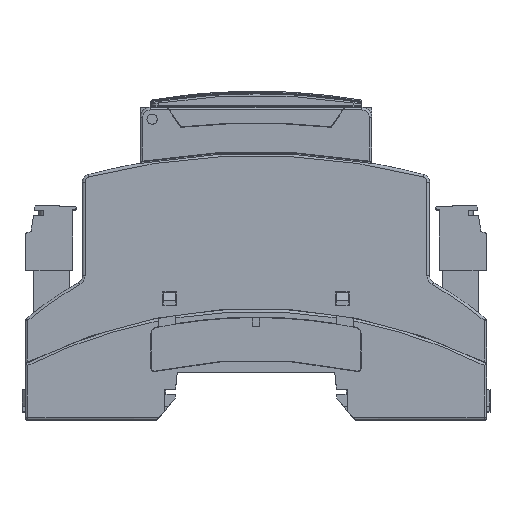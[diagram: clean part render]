
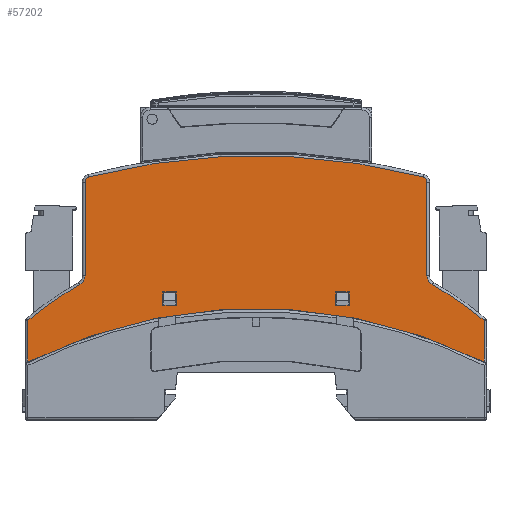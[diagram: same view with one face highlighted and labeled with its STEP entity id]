
A CAD part, top view. The second image highlights one B-rep face of the part: STEP entity #57202.
In plain terms, the highlighted planar face has unit normal (0, 0, 1).
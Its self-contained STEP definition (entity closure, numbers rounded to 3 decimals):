
#1226=FACE_BOUND('',#7648,.T.);
#1227=FACE_BOUND('',#7649,.T.);
#1864=CIRCLE('',#60338,99.5);
#1869=CIRCLE('',#60345,69.5);
#1872=CIRCLE('',#60351,2.);
#1874=CIRCLE('',#60355,1.);
#1877=CIRCLE('',#60359,2.);
#1937=CIRCLE('',#60550,129.2);
#1948=CIRCLE('',#60589,1.);
#1979=CIRCLE('',#60698,69.5);
#4410=FACE_OUTER_BOUND('',#7647,.T.);
#7647=EDGE_LOOP('',(#43530,#43531,#43532,#43533,#43534,#43535,#43536,#43537,
#43538,#43539,#43540,#43541));
#7648=EDGE_LOOP('',(#43542,#43543,#43544,#43545));
#7649=EDGE_LOOP('',(#43546,#43547,#43548,#43549));
#11834=LINE('',#83375,#18674);
#11941=LINE('',#83584,#18781);
#11956=LINE('',#83613,#18796);
#12030=LINE('',#83794,#18870);
#12038=LINE('',#83936,#18878);
#12201=LINE('',#84541,#19041);
#12274=LINE('',#84747,#19114);
#12277=LINE('',#84758,#19117);
#12718=LINE('',#85905,#19558);
#12720=LINE('',#85910,#19560);
#12723=LINE('',#85914,#19563);
#12724=LINE('',#85916,#19564);
#18674=VECTOR('',#67170,1.);
#18781=VECTOR('',#67397,1.);
#18796=VECTOR('',#67416,1.);
#18870=VECTOR('',#67552,1.);
#18878=VECTOR('',#67598,1.);
#19041=VECTOR('',#67949,1.);
#19114=VECTOR('',#68130,1.);
#19117=VECTOR('',#68145,1.);
#19558=VECTOR('',#69078,1.);
#19560=VECTOR('',#69082,1.);
#19563=VECTOR('',#69087,1.);
#19564=VECTOR('',#69090,1.);
#25059=VERTEX_POINT('',#83373);
#25060=VERTEX_POINT('',#83374);
#25101=VERTEX_POINT('',#83581);
#25102=VERTEX_POINT('',#83583);
#25189=VERTEX_POINT('',#83792);
#25190=VERTEX_POINT('',#83793);
#25192=VERTEX_POINT('',#83853);
#25199=VERTEX_POINT('',#83923);
#25200=VERTEX_POINT('',#83930);
#25201=VERTEX_POINT('',#83934);
#25202=VERTEX_POINT('',#83938);
#25204=VERTEX_POINT('',#83943);
#25205=VERTEX_POINT('',#83945);
#25360=VERTEX_POINT('',#84540);
#25400=VERTEX_POINT('',#84754);
#25424=VERTEX_POINT('',#84906);
#25719=VERTEX_POINT('',#85902);
#25720=VERTEX_POINT('',#85904);
#25721=VERTEX_POINT('',#85908);
#25722=VERTEX_POINT('',#85909);
#31088=EDGE_CURVE('',#25059,#25060,#11834,.T.);
#31195=EDGE_CURVE('',#25102,#25101,#11941,.T.);
#31210=EDGE_CURVE('',#25060,#25102,#11956,.T.);
#31303=EDGE_CURVE('',#25189,#25190,#12030,.T.);
#31308=EDGE_CURVE('',#25192,#25190,#1864,.T.);
#31319=EDGE_CURVE('',#25199,#25189,#1869,.T.);
#31322=EDGE_CURVE('',#25199,#25200,#1872,.T.);
#31324=EDGE_CURVE('',#25201,#25200,#12038,.T.);
#31325=EDGE_CURVE('',#25202,#25201,#1874,.T.);
#31328=EDGE_CURVE('',#25204,#25205,#1877,.T.);
#31534=EDGE_CURVE('',#25360,#25205,#12201,.T.);
#31623=EDGE_CURVE('',#25101,#25059,#12274,.T.);
#31627=EDGE_CURVE('',#25192,#25400,#12277,.T.);
#31674=EDGE_CURVE('',#25202,#25424,#1937,.T.);
#31830=EDGE_CURVE('',#25360,#25424,#1948,.T.);
#32063=EDGE_CURVE('',#25204,#25400,#1979,.T.);
#32133=EDGE_CURVE('',#25720,#25719,#12718,.T.);
#32135=EDGE_CURVE('',#25721,#25722,#12720,.T.);
#32138=EDGE_CURVE('',#25722,#25720,#12723,.T.);
#32139=EDGE_CURVE('',#25719,#25721,#12724,.T.);
#43530=ORIENTED_EDGE('',*,*,#31308,.T.);
#43531=ORIENTED_EDGE('',*,*,#31303,.F.);
#43532=ORIENTED_EDGE('',*,*,#31319,.F.);
#43533=ORIENTED_EDGE('',*,*,#31322,.T.);
#43534=ORIENTED_EDGE('',*,*,#31324,.F.);
#43535=ORIENTED_EDGE('',*,*,#31325,.F.);
#43536=ORIENTED_EDGE('',*,*,#31674,.T.);
#43537=ORIENTED_EDGE('',*,*,#31830,.F.);
#43538=ORIENTED_EDGE('',*,*,#31534,.T.);
#43539=ORIENTED_EDGE('',*,*,#31328,.F.);
#43540=ORIENTED_EDGE('',*,*,#32063,.T.);
#43541=ORIENTED_EDGE('',*,*,#31627,.F.);
#43542=ORIENTED_EDGE('',*,*,#31088,.T.);
#43543=ORIENTED_EDGE('',*,*,#31210,.T.);
#43544=ORIENTED_EDGE('',*,*,#31195,.T.);
#43545=ORIENTED_EDGE('',*,*,#31623,.T.);
#43546=ORIENTED_EDGE('',*,*,#32139,.T.);
#43547=ORIENTED_EDGE('',*,*,#32135,.T.);
#43548=ORIENTED_EDGE('',*,*,#32138,.T.);
#43549=ORIENTED_EDGE('',*,*,#32133,.T.);
#54762=PLANE('',#60789);
#57202=ADVANCED_FACE('',(#4410,#1226,#1227),#54762,.F.);
#60338=AXIS2_PLACEMENT_3D('',#83854,#67561,#67562);
#60345=AXIS2_PLACEMENT_3D('',#83925,#67580,#67581);
#60351=AXIS2_PLACEMENT_3D('',#83932,#67592,#67593);
#60355=AXIS2_PLACEMENT_3D('',#83939,#67601,#67602);
#60359=AXIS2_PLACEMENT_3D('',#83946,#67609,#67610);
#60550=AXIS2_PLACEMENT_3D('',#84908,#68262,#68263);
#60589=AXIS2_PLACEMENT_3D('',#85256,#68483,#68484);
#60698=AXIS2_PLACEMENT_3D('',#85760,#68902,#68903);
#60789=AXIS2_PLACEMENT_3D('',#86065,#69232,#69233);
#67170=DIRECTION('',(0.,-1.,0.));
#67397=DIRECTION('',(0.,1.,0.));
#67416=DIRECTION('',(-1.,0.,0.));
#67552=DIRECTION('',(0.,1.,0.));
#67561=DIRECTION('center_axis',(0.,0.,
-1.));
#67562=DIRECTION('ref_axis',(1.,0.,0.));
#67580=DIRECTION('center_axis',(0.,0.,-1.));
#67581=DIRECTION('ref_axis',(0.,-1.,0.));
#67592=DIRECTION('center_axis',(0.,0.,-1.));
#67593=DIRECTION('ref_axis',(0.,-1.,0.));
#67598=DIRECTION('',(0.,1.,0.));
#67601=DIRECTION('center_axis',(0.,0.,
-1.));
#67602=DIRECTION('ref_axis',(-1.,0.,0.));
#67609=DIRECTION('center_axis',(0.,0.,1.));
#67610=DIRECTION('ref_axis',(0.,1.,0.));
#67949=DIRECTION('',(0.,1.,0.));
#68130=DIRECTION('',(1.,0.,0.));
#68145=DIRECTION('',(0.,-1.,0.));
#68262=DIRECTION('center_axis',(0.,0.,
1.));
#68263=DIRECTION('ref_axis',(1.,0.,0.));
#68483=DIRECTION('center_axis',(0.,0.,
-1.));
#68484=DIRECTION('ref_axis',(-1.,0.,0.));
#68902=DIRECTION('center_axis',(0.,0.,1.));
#68903=DIRECTION('ref_axis',(0.,1.,0.));
#69078=DIRECTION('',(1.,0.,0.));
#69082=DIRECTION('',(-1.,0.,0.));
#69087=DIRECTION('',(0.,1.,0.));
#69090=DIRECTION('',(0.,-1.,0.));
#69232=DIRECTION('center_axis',(0.,0.,-1.));
#69233=DIRECTION('ref_axis',(1.,0.,0.));
#83373=CARTESIAN_POINT('',(-21.15,-18.5,-0.1));
#83374=CARTESIAN_POINT('',(-21.15,-21.1,-0.1));
#83375=CARTESIAN_POINT('',(-21.15,0.,-0.1));
#83581=CARTESIAN_POINT('',(-23.75,-18.5,-0.1));
#83583=CARTESIAN_POINT('',(-23.75,-21.1,-0.1));
#83584=CARTESIAN_POINT('',(-23.75,0.,-0.1));
#83613=CARTESIAN_POINT('',(0.,-21.1,-0.1));
#83792=CARTESIAN_POINT('',(-50.,-15.56,-0.1));
#83793=CARTESIAN_POINT('',(-50.,-7.469,-0.1));
#83794=CARTESIAN_POINT('',(-50.,0.,-0.1));
#83853=CARTESIAN_POINT('',(38.7,-7.469,-0.1));
#83854=CARTESIAN_POINT('Origin',(-5.65,81.6,-0.1));
#83923=CARTESIAN_POINT('',(-39.914,-22.517,-0.1));
#83925=CARTESIAN_POINT('Origin',(-5.65,37.95,-0.1));
#83930=CARTESIAN_POINT('',(-38.9,-24.257,-0.1));
#83932=CARTESIAN_POINT('Origin',(-40.9,-24.257,-0.1));
#83934=CARTESIAN_POINT('',(-38.9,-42.477,-0.1));
#83936=CARTESIAN_POINT('',(-38.9,-42.477,-0.1));
#83938=CARTESIAN_POINT('',(-38.152,-43.445,-0.1));
#83939=CARTESIAN_POINT('Origin',(-37.9,-42.477,-0.1));
#83943=CARTESIAN_POINT('',(28.614,-22.517,-0.1));
#83945=CARTESIAN_POINT('',(27.6,-24.257,-0.1));
#83946=CARTESIAN_POINT('Origin',(29.6,-24.257,-0.1));
#84540=CARTESIAN_POINT('',(27.6,-42.477,-0.1));
#84541=CARTESIAN_POINT('',(27.6,-42.477,-0.1));
#84747=CARTESIAN_POINT('',(0.,-18.5,-0.1));
#84754=CARTESIAN_POINT('',(38.7,-15.56,-0.1));
#84758=CARTESIAN_POINT('',(38.7,0.,-0.1));
#84906=CARTESIAN_POINT('',(26.852,-43.445,-0.1));
#84908=CARTESIAN_POINT('Origin',(-5.65,81.6,-0.1));
#85256=CARTESIAN_POINT('Origin',(26.6,-42.477,-0.1));
#85760=CARTESIAN_POINT('Origin',(-5.65,37.95,-0.1));
#85902=CARTESIAN_POINT('',(12.45,-18.5,-0.1));
#85904=CARTESIAN_POINT('',(9.85,-18.5,-0.1));
#85905=CARTESIAN_POINT('',(0.,-18.5,-0.1));
#85908=CARTESIAN_POINT('',(12.45,-21.1,-0.1));
#85909=CARTESIAN_POINT('',(9.85,-21.1,-0.1));
#85910=CARTESIAN_POINT('',(0.,-21.1,-0.1));
#85914=CARTESIAN_POINT('',(9.85,0.,-0.1));
#85916=CARTESIAN_POINT('',(12.45,0.,-0.1));
#86065=CARTESIAN_POINT('Origin',(-23.996,-40.289,-0.1));
